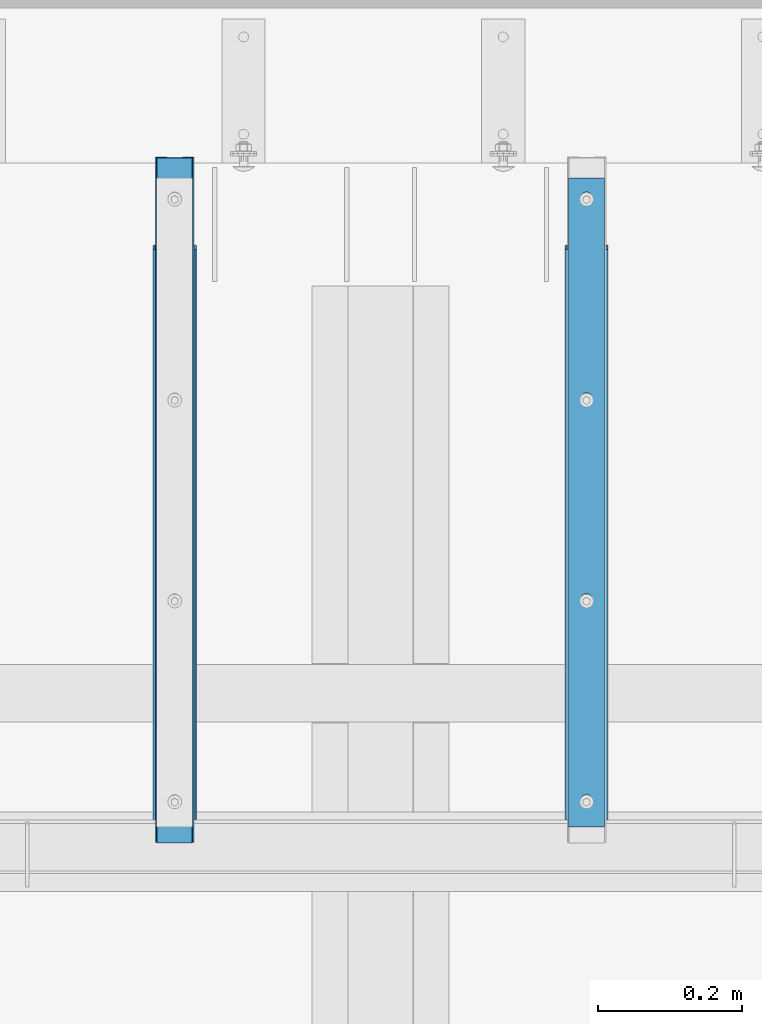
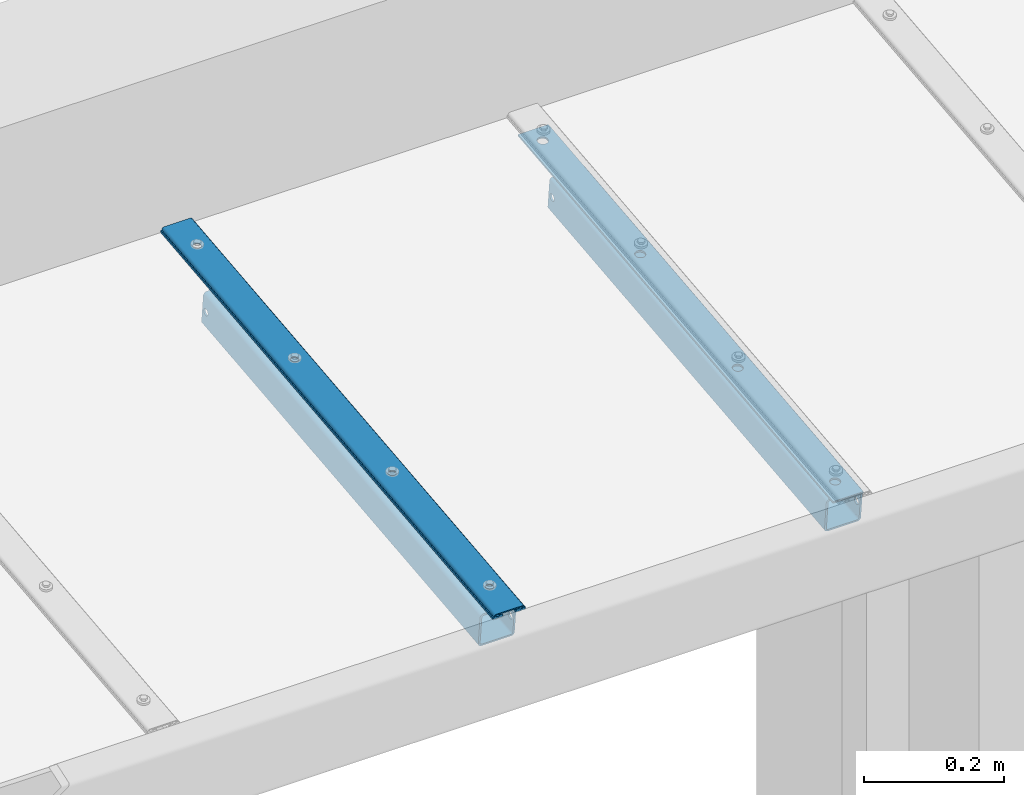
# One storey, part 18 of 116: 4 members, 12 openings.
"""IFC2X3 building model written with IfcOpenShell, lengths in millimetres."""

from ifc_helpers import new_model, entity, si_unit, converted_unit, point, frame, frame_2d, origin, origin_with_axes, origin_2d, origin_2d_with_axis, place, context, project, spatial, polyline, circle_curve, line_curve, trimmed, segment, composite_curve, hollow_rectangle, circle, outline, extrude, material, element, save


model = new_model("IFC2X3")

# Units and contexts
model_context = context("Model", 3, precision=1e-09, world=origin_with_axes())
ifc_project = project(units=[si_unit("LENGTHUNIT", "METRE", prefix="MILLI"), si_unit("AREAUNIT", "SQUARE_METRE"), si_unit("VOLUMEUNIT", "CUBIC_METRE"), converted_unit("PLANEANGLEUNIT", "DEGREE", entity("IfcPlaneAngleMeasure", 0.01745329), si_unit("PLANEANGLEUNIT", "RADIAN"), dimensions=[0, 0, 0, 0, 0, 0, 0])], contexts=[model_context])

# Site, building, storey
site_placement = place(None, origin_with_axes())
site = spatial("IfcSite", under=ifc_project, at=site_placement, Name="Site", CompositionType="ELEMENT")
building_placement = place(site_placement, origin_with_axes())
building = spatial("IfcBuilding", under=site, at=building_placement, Name="Struktur 1", CompositionType="ELEMENT")
storey_placement = place(building_placement, origin_with_axes())
storey = spatial("IfcBuildingStorey", under=building, at=storey_placement, Name="Default Storey", CompositionType="ELEMENT", Elevation=0.0)

# Member, openings
ifc_material = material(Name="S235JR")
member_1_placement = place(None, frame((56466.549134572, 11080.325462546, 2512.640850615), z_axis=(0.0, -0.994521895, -0.104528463), x_axis=(1.0, 0.0, 0.0)))
member_1 = element("IfcMember", 1, at=member_1_placement, inside=storey, material=ifc_material, Name="-", ObjectType="-", context=model_context, shape_type="SweptSolid", body=[
    extrude(outline(composite_curve([segment(trimmed(line_curve((10.75, -4.5), (1.0, 0.0), 0.5), [point((10.75, -4.5))], [point((11.25, -4.5))], True, "CARTESIAN"), True, "CONTINUOUS"), segment(trimmed(line_curve((11.25, -4.5), (0.0, 1.0), 1.0), [point((11.25, -4.5))], [point((11.25, -3.5))], True, "CARTESIAN"), True, "CONTINUOUS"), segment(trimmed(line_curve((11.25, -3.5), (1.0, 0.0), 1.0), [point((11.25, -3.5))], [point((12.25, -3.5))], True, "CARTESIAN"), True, "CONTINUOUS"), segment(trimmed(line_curve((12.25, -3.5), (0.0, -1.0), 1.0), [point((12.25, -3.5))], [point((12.25, -4.5))], True, "CARTESIAN"), True, "CONTINUOUS"), segment(trimmed(line_curve((12.25, -4.5), (1.0, 0.0), 1.0), [point((12.25, -4.5))], [point((13.25, -4.5))], True, "CARTESIAN"), True, "CONTINUOUS"), segment(trimmed(line_curve((13.25, -4.5), (0.0, 1.0), 1.0), [point((13.25, -4.5))], [point((13.25, -3.5))], True, "CARTESIAN"), True, "CONTINUOUS"), segment(trimmed(line_curve((13.25, -3.5), (1.0, 0.0), 1.0), [point((13.25, -3.5))], [point((14.25, -3.5))], True, "CARTESIAN"), True, "CONTINUOUS"), segment(trimmed(line_curve((14.25, -3.5), (0.0, -1.0), 1.0), [point((14.25, -3.5))], [point((14.25, -4.5))], True, "CARTESIAN"), True, "CONTINUOUS"), segment(trimmed(line_curve((14.25, -4.5), (1.0, 0.0), 1.0), [point((14.25, -4.5))], [point((15.25, -4.5))], True, "CARTESIAN"), True, "CONTINUOUS"), segment(trimmed(line_curve((15.25, -4.5), (0.0, 1.0), 1.0), [point((15.25, -4.5))], [point((15.25, -3.5))], True, "CARTESIAN"), True, "CONTINUOUS"), segment(trimmed(line_curve((15.25, -3.5), (1.0, 0.0), 1.0), [point((15.25, -3.5))], [point((16.25, -3.5))], True, "CARTESIAN"), True, "CONTINUOUS"), segment(trimmed(line_curve((16.25, -3.5), (0.0, -1.0), 1.0), [point((16.25, -3.5))], [point((16.25, -4.5))], True, "CARTESIAN"), True, "CONTINUOUS"), segment(trimmed(line_curve((16.25, -4.5), (1.0, 0.0), 1.0), [point((16.25, -4.5))], [point((17.25, -4.5))], True, "CARTESIAN"), True, "CONTINUOUS"), segment(trimmed(line_curve((17.25, -4.5), (0.0, 1.0), 1.0), [point((17.25, -4.5))], [point((17.25, -3.5))], True, "CARTESIAN"), True, "CONTINUOUS"), segment(trimmed(line_curve((17.25, -3.5), (1.0, 0.0), 1.0), [point((17.25, -3.5))], [point((18.25, -3.5))], True, "CARTESIAN"), True, "CONTINUOUS"), segment(trimmed(line_curve((18.25, -3.5), (0.0, -1.0), 1.0), [point((18.25, -3.5))], [point((18.25, -4.5))], True, "CARTESIAN"), True, "CONTINUOUS"), segment(trimmed(line_curve((18.25, -4.5), (1.0, 0.0), 1.0), [point((18.25, -4.5))], [point((19.25, -4.5))], True, "CARTESIAN"), True, "CONTINUOUS"), segment(trimmed(line_curve((19.25, -4.5), (0.0, 1.0), 1.0), [point((19.25, -4.5))], [point((19.25, -3.5))], True, "CARTESIAN"), True, "CONTINUOUS"), segment(trimmed(line_curve((19.25, -3.5), (1.0, 0.0), 1.0), [point((19.25, -3.5))], [point((20.25, -3.5))], True, "CARTESIAN"), True, "CONTINUOUS"), segment(trimmed(line_curve((20.25, -3.5), (0.0, -1.0), 1.0), [point((20.25, -3.5))], [point((20.25, -4.5))], True, "CARTESIAN"), True, "CONTINUOUS"), segment(trimmed(line_curve((20.25, -4.5), (1.0, 0.0), 1.0), [point((20.25, -4.5))], [point((21.25, -4.5))], True, "CARTESIAN"), True, "CONTINUOUS"), segment(trimmed(line_curve((21.25, -4.5), (0.0, 1.0), 1.0), [point((21.25, -4.5))], [point((21.25, -3.5))], True, "CARTESIAN"), True, "CONTINUOUS"), segment(trimmed(line_curve((21.25, -3.5), (1.0, 0.0), 1.0), [point((21.25, -3.5))], [point((22.25, -3.5))], True, "CARTESIAN"), True, "CONTINUOUS"), segment(trimmed(line_curve((22.25, -3.5), (0.0, -1.0), 1.0), [point((22.25, -3.5))], [point((22.25, -4.5))], True, "CARTESIAN"), True, "CONTINUOUS"), segment(trimmed(line_curve((22.25, -4.5), (1.0, 0.0), 1.0), [point((22.25, -4.5))], [point((23.25, -4.5))], True, "CARTESIAN"), True, "CONTINUOUS"), segment(trimmed(line_curve((23.25, -4.5), (0.0, 1.0), 1.0), [point((23.25, -4.5))], [point((23.25, -3.5))], True, "CARTESIAN"), True, "CONTINUOUS"), segment(trimmed(line_curve((23.25, -3.5), (1.0, 0.0), 1.0), [point((23.25, -3.5))], [point((24.25, -3.5))], True, "CARTESIAN"), True, "CONTINUOUS"), segment(trimmed(line_curve((24.25, -3.5), (0.0, -1.0), 1.0), [point((24.25, -3.5))], [point((24.25, -4.5))], True, "CARTESIAN"), True, "CONTINUOUS"), segment(trimmed(line_curve((24.25, -4.5), (1.0, 0.0), 1.0), [point((24.25, -4.5))], [point((25.25, -4.5))], True, "CARTESIAN"), True, "CONTINUOUS"), segment(trimmed(line_curve((25.25, -4.5), (0.0, 1.0), 1.0), [point((25.25, -4.5))], [point((25.25, -3.5))], True, "CARTESIAN"), True, "CONTINUOUS"), segment(trimmed(line_curve((25.25, -3.5), (1.0, 0.0), 1.0), [point((25.25, -3.5))], [point((26.25, -3.5))], True, "CARTESIAN"), True, "CONTINUOUS"), segment(trimmed(line_curve((26.25, -3.5), (0.0, -1.0), 1.0), [point((26.25, -3.5))], [point((26.25, -4.5))], True, "CARTESIAN"), True, "CONTINUOUS"), segment(trimmed(line_curve((26.25, -4.5), (1.0, 0.0), 0.5), [point((26.25, -4.5))], [point((26.75, -4.5))], True, "CARTESIAN"), True, "CONTINUOUS"), segment(trimmed(line_curve((26.75, -4.5), (0.0, 1.0), 4.0), [point((26.75, -4.5))], [point((26.75, -0.5))], True, "CARTESIAN"), True, "CONTINUOUS"), segment(trimmed(line_curve((26.75, -0.5), (-1.0, 0.0), 1.75), [point((26.75, -0.5))], [point((25.0, -0.5))], True, "CARTESIAN"), True, "CONTINUOUS"), segment(trimmed(line_curve((25.0, -0.5), (0.0, 1.0), 1.5), [point((25.0, -0.5))], [point((25.0, 1.0))], True, "CARTESIAN"), True, "CONTINUOUS"), segment(trimmed(circle_curve(frame_2d((21.499999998, 0.999999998), x_axis=(1.0, 0.0)), 3.500000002), [point((25.0, 1.0))], [point((21.5, 4.5))], True, "CARTESIAN"), True, "CONTINUOUS"), segment(trimmed(line_curve((21.5, 4.5), (-1.0, 0.0), 43.0), [point((21.5, 4.5))], [point((-21.5, 4.5))], True, "CARTESIAN"), True, "CONTINUOUS"), segment(trimmed(circle_curve(frame_2d((-21.499999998, 0.999999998), x_axis=(1.0, 0.0)), 3.500000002), [point((-21.5, 4.5))], [point((-25.0, 1.0))], True, "CARTESIAN"), True, "CONTINUOUS"), segment(trimmed(line_curve((-25.0, 1.0), (0.0, -1.0), 1.5), [point((-25.0, 1.0))], [point((-25.0, -0.5))], True, "CARTESIAN"), True, "CONTINUOUS"), segment(trimmed(line_curve((-25.0, -0.5), (-1.0, 0.0), 1.75), [point((-25.0, -0.5))], [point((-26.75, -0.5))], True, "CARTESIAN"), True, "CONTINUOUS"), segment(trimmed(line_curve((-26.75, -0.5), (0.0, -1.0), 4.0), [point((-26.75, -0.5))], [point((-26.75, -4.5))], True, "CARTESIAN"), True, "CONTINUOUS"), segment(trimmed(line_curve((-26.75, -4.5), (1.0, 0.0), 0.5), [point((-26.75, -4.5))], [point((-26.25, -4.5))], True, "CARTESIAN"), True, "CONTINUOUS"), segment(trimmed(line_curve((-26.25, -4.5), (0.0, 1.0), 1.0), [point((-26.25, -4.5))], [point((-26.25, -3.5))], True, "CARTESIAN"), True, "CONTINUOUS"), segment(trimmed(line_curve((-26.25, -3.5), (1.0, 0.0), 1.0), [point((-26.25, -3.5))], [point((-25.25, -3.5))], True, "CARTESIAN"), True, "CONTINUOUS"), segment(trimmed(line_curve((-25.25, -3.5), (0.0, -1.0), 1.0), [point((-25.25, -3.5))], [point((-25.25, -4.5))], True, "CARTESIAN"), True, "CONTINUOUS"), segment(trimmed(line_curve((-25.25, -4.5), (1.0, 0.0), 1.0), [point((-25.25, -4.5))], [point((-24.25, -4.5))], True, "CARTESIAN"), True, "CONTINUOUS"), segment(trimmed(line_curve((-24.25, -4.5), (0.0, 1.0), 1.0), [point((-24.25, -4.5))], [point((-24.25, -3.5))], True, "CARTESIAN"), True, "CONTINUOUS"), segment(trimmed(line_curve((-24.25, -3.5), (1.0, 0.0), 1.0), [point((-24.25, -3.5))], [point((-23.25, -3.5))], True, "CARTESIAN"), True, "CONTINUOUS"), segment(trimmed(line_curve((-23.25, -3.5), (0.0, -1.0), 1.0), [point((-23.25, -3.5))], [point((-23.25, -4.5))], True, "CARTESIAN"), True, "CONTINUOUS"), segment(trimmed(line_curve((-23.25, -4.5), (1.0, 0.0), 1.0), [point((-23.25, -4.5))], [point((-22.25, -4.5))], True, "CARTESIAN"), True, "CONTINUOUS"), segment(trimmed(line_curve((-22.25, -4.5), (0.0, 1.0), 1.0), [point((-22.25, -4.5))], [point((-22.25, -3.5))], True, "CARTESIAN"), True, "CONTINUOUS"), segment(trimmed(line_curve((-22.25, -3.5), (1.0, 0.0), 1.0), [point((-22.25, -3.5))], [point((-21.25, -3.5))], True, "CARTESIAN"), True, "CONTINUOUS"), segment(trimmed(line_curve((-21.25, -3.5), (0.0, -1.0), 1.0), [point((-21.25, -3.5))], [point((-21.25, -4.5))], True, "CARTESIAN"), True, "CONTINUOUS"), segment(trimmed(line_curve((-21.25, -4.5), (1.0, 0.0), 1.0), [point((-21.25, -4.5))], [point((-20.25, -4.5))], True, "CARTESIAN"), True, "CONTINUOUS"), segment(trimmed(line_curve((-20.25, -4.5), (0.0, 1.0), 1.0), [point((-20.25, -4.5))], [point((-20.25, -3.5))], True, "CARTESIAN"), True, "CONTINUOUS"), segment(trimmed(line_curve((-20.25, -3.5), (1.0, 0.0), 1.0), [point((-20.25, -3.5))], [point((-19.25, -3.5))], True, "CARTESIAN"), True, "CONTINUOUS"), segment(trimmed(line_curve((-19.25, -3.5), (0.0, -1.0), 1.0), [point((-19.25, -3.5))], [point((-19.25, -4.5))], True, "CARTESIAN"), True, "CONTINUOUS"), segment(trimmed(line_curve((-19.25, -4.5), (1.0, 0.0), 1.0), [point((-19.25, -4.5))], [point((-18.25, -4.5))], True, "CARTESIAN"), True, "CONTINUOUS"), segment(trimmed(line_curve((-18.25, -4.5), (0.0, 1.0), 1.0), [point((-18.25, -4.5))], [point((-18.25, -3.5))], True, "CARTESIAN"), True, "CONTINUOUS"), segment(trimmed(line_curve((-18.25, -3.5), (1.0, 0.0), 1.0), [point((-18.25, -3.5))], [point((-17.25, -3.5))], True, "CARTESIAN"), True, "CONTINUOUS"), segment(trimmed(line_curve((-17.25, -3.5), (0.0, -1.0), 1.0), [point((-17.25, -3.5))], [point((-17.25, -4.5))], True, "CARTESIAN"), True, "CONTINUOUS"), segment(trimmed(line_curve((-17.25, -4.5), (1.0, 0.0), 1.0), [point((-17.25, -4.5))], [point((-16.25, -4.5))], True, "CARTESIAN"), True, "CONTINUOUS"), segment(trimmed(line_curve((-16.25, -4.5), (0.0, 1.0), 1.0), [point((-16.25, -4.5))], [point((-16.25, -3.5))], True, "CARTESIAN"), True, "CONTINUOUS"), segment(trimmed(line_curve((-16.25, -3.5), (1.0, 0.0), 1.0), [point((-16.25, -3.5))], [point((-15.25, -3.5))], True, "CARTESIAN"), True, "CONTINUOUS"), segment(trimmed(line_curve((-15.25, -3.5), (0.0, -1.0), 1.0), [point((-15.25, -3.5))], [point((-15.25, -4.5))], True, "CARTESIAN"), True, "CONTINUOUS"), segment(trimmed(line_curve((-15.25, -4.5), (1.0, 0.0), 1.0), [point((-15.25, -4.5))], [point((-14.25, -4.5))], True, "CARTESIAN"), True, "CONTINUOUS"), segment(trimmed(line_curve((-14.25, -4.5), (0.0, 1.0), 1.0), [point((-14.25, -4.5))], [point((-14.25, -3.5))], True, "CARTESIAN"), True, "CONTINUOUS"), segment(trimmed(line_curve((-14.25, -3.5), (1.0, 0.0), 1.0), [point((-14.25, -3.5))], [point((-13.25, -3.5))], True, "CARTESIAN"), True, "CONTINUOUS"), segment(trimmed(line_curve((-13.25, -3.5), (0.0, -1.0), 1.0), [point((-13.25, -3.5))], [point((-13.25, -4.5))], True, "CARTESIAN"), True, "CONTINUOUS"), segment(trimmed(line_curve((-13.25, -4.5), (1.0, 0.0), 1.0), [point((-13.25, -4.5))], [point((-12.25, -4.5))], True, "CARTESIAN"), True, "CONTINUOUS"), segment(trimmed(line_curve((-12.25, -4.5), (0.0, 1.0), 1.0), [point((-12.25, -4.5))], [point((-12.25, -3.5))], True, "CARTESIAN"), True, "CONTINUOUS"), segment(trimmed(line_curve((-12.25, -3.5), (1.0, 0.0), 1.0), [point((-12.25, -3.5))], [point((-11.25, -3.5))], True, "CARTESIAN"), True, "CONTINUOUS"), segment(trimmed(line_curve((-11.25, -3.5), (0.0, -1.0), 1.0), [point((-11.25, -3.5))], [point((-11.25, -4.5))], True, "CARTESIAN"), True, "CONTINUOUS"), segment(trimmed(line_curve((-11.25, -4.5), (1.0, 0.0), 0.5), [point((-11.25, -4.5))], [point((-10.75, -4.5))], True, "CARTESIAN"), True, "CONTINUOUS"), segment(trimmed(line_curve((-10.75, -4.5), (0.0, 1.0), 4.0), [point((-10.75, -4.5))], [point((-10.75, -0.5))], True, "CARTESIAN"), True, "CONTINUOUS"), segment(trimmed(line_curve((-10.75, -0.5), (-1.0, 0.0), 1.75), [point((-10.75, -0.5))], [point((-12.5, -0.5))], True, "CARTESIAN"), True, "CONTINUOUS"), segment(trimmed(line_curve((-12.5, -0.5), (0.0, 1.0), 3.0), [point((-12.5, -0.5))], [point((-12.5, 2.5))], True, "CARTESIAN"), True, "CONTINUOUS"), segment(trimmed(line_curve((-12.5, 2.5), (1.0, 0.0), 25.0), [point((-12.5, 2.5))], [point((12.5, 2.5))], True, "CARTESIAN"), True, "CONTINUOUS"), segment(trimmed(line_curve((12.5, 2.5), (0.0, -1.0), 3.0), [point((12.5, 2.5))], [point((12.5, -0.5))], True, "CARTESIAN"), True, "CONTINUOUS"), segment(trimmed(line_curve((12.5, -0.5), (-1.0, 0.0), 1.75), [point((12.5, -0.5))], [point((10.75, -0.5))], True, "CARTESIAN"), True, "CONTINUOUS"), segment(trimmed(line_curve((10.75, -0.5), (0.0, -1.0), 4.0), [point((10.75, -0.5))], [point((10.75, -4.5))], True, "CARTESIAN"), True, "CONTINUOUS")], self_intersect=False), holes=[composite_curve([segment(trimmed(line_curve((16.25, -0.5), (1.0, 0.0), 5.0), [point((16.25, -0.5))], [point((21.25, -0.5))], True, "CARTESIAN"), True, "CONTINUOUS"), segment(trimmed(line_curve((21.25, -0.5), (0.0, 1.0), 1.5), [point((21.25, -0.5))], [point((21.25, 1.0))], True, "CARTESIAN"), True, "CONTINUOUS"), segment(trimmed(line_curve((21.25, 1.0), (1.0, 0.0), 2.25), [point((21.25, 1.0))], [point((23.5, 1.0))], True, "CARTESIAN"), True, "CONTINUOUS"), segment(trimmed(circle_curve(frame_2d((21.499999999, 0.999999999), x_axis=(1.0, 0.0)), 2.000000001), [point((23.5, 1.0))], [point((21.5, 3.0))], True, "CARTESIAN"), True, "CONTINUOUS"), segment(trimmed(line_curve((21.5, 3.0), (-1.0, 0.0), 7.5), [point((21.5, 3.0))], [point((14.0, 3.0))], True, "CARTESIAN"), True, "CONTINUOUS"), segment(trimmed(line_curve((14.0, 3.0), (0.0, -1.0), 2.0), [point((14.0, 3.0))], [point((14.0, 1.0))], True, "CARTESIAN"), True, "CONTINUOUS"), segment(trimmed(line_curve((14.0, 1.0), (1.0, 0.0), 2.25), [point((14.0, 1.0))], [point((16.25, 1.0))], True, "CARTESIAN"), True, "CONTINUOUS"), segment(trimmed(line_curve((16.25, 1.0), (0.0, -1.0), 1.5), [point((16.25, 1.0))], [point((16.25, -0.5))], True, "CARTESIAN"), True, "CONTINUOUS")], self_intersect=False), composite_curve([segment(trimmed(line_curve((-16.25, -0.5), (0.0, 1.0), 1.5), [point((-16.25, -0.5))], [point((-16.25, 1.0))], True, "CARTESIAN"), True, "CONTINUOUS"), segment(trimmed(line_curve((-16.25, 1.0), (1.0, 0.0), 2.25), [point((-16.25, 1.0))], [point((-14.0, 1.0))], True, "CARTESIAN"), True, "CONTINUOUS"), segment(trimmed(line_curve((-14.0, 1.0), (0.0, 1.0), 2.0), [point((-14.0, 1.0))], [point((-14.0, 3.0))], True, "CARTESIAN"), True, "CONTINUOUS"), segment(trimmed(line_curve((-14.0, 3.0), (-1.0, 0.0), 7.5), [point((-14.0, 3.0))], [point((-21.5, 3.0))], True, "CARTESIAN"), True, "CONTINUOUS"), segment(trimmed(circle_curve(frame_2d((-21.499999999, 0.999999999), x_axis=(1.0, 0.0)), 2.000000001), [point((-21.5, 3.0))], [point((-23.5, 1.0))], True, "CARTESIAN"), True, "CONTINUOUS"), segment(trimmed(line_curve((-23.5, 1.0), (1.0, 0.0), 2.25), [point((-23.5, 1.0))], [point((-21.25, 1.0))], True, "CARTESIAN"), True, "CONTINUOUS"), segment(trimmed(line_curve((-21.25, 1.0), (0.0, -1.0), 1.5), [point((-21.25, 1.0))], [point((-21.25, -0.5))], True, "CARTESIAN"), True, "CONTINUOUS"), segment(trimmed(line_curve((-21.25, -0.5), (1.0, 0.0), 5.0), [point((-21.25, -0.5))], [point((-16.25, -0.5))], True, "CARTESIAN"), True, "CONTINUOUS")], self_intersect=False)]), origin(), (0.0, 0.0, -1.0), 954.995580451),
])
opening_1_placement = place(member_1_placement, frame((2e-09, 2.0, -897.497790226), z_axis=(0.0, 1.0, 0.0), x_axis=(1.0, 0.0, 0.0)))
element("IfcOpeningElement", 2, at=opening_1_placement, cuts=member_1, ObjectType="Opening", context=model_context, shape_type="SweptSolid", body=[
    extrude(circle(Radius=6.001, at=origin_2d_with_axis()), origin(), (0.0, 0.0, 1.0), 3.0),
])
opening_2_placement = place(member_1_placement, frame((2e-09, 2.0, -57.497790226), z_axis=(0.0, 1.0, 0.0), x_axis=(1.0, 0.0, 0.0)))
element("IfcOpeningElement", 3, at=opening_2_placement, cuts=member_1, ObjectType="Opening", context=model_context, shape_type="SweptSolid", body=[
    extrude(circle(Radius=6.001, at=origin_2d_with_axis()), origin(), (0.0, 0.0, 1.0), 3.0),
])
opening_3_placement = place(member_1_placement, frame((2e-09, 2.0, -617.497790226), z_axis=(0.0, 1.0, 0.0), x_axis=(1.0, 0.0, 0.0)))
element("IfcOpeningElement", 4, at=opening_3_placement, cuts=member_1, ObjectType="Opening", context=model_context, shape_type="SweptSolid", body=[
    extrude(circle(Radius=6.001, at=origin_2d_with_axis()), origin(), (0.0, 0.0, 1.0), 3.0),
])
opening_4_placement = place(member_1_placement, frame((2e-09, 2.0, -337.497790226), z_axis=(0.0, 1.0, 0.0), x_axis=(1.0, 0.0, 0.0)))
element("IfcOpeningElement", 5, at=opening_4_placement, cuts=member_1, ObjectType="Opening", context=model_context, shape_type="SweptSolid", body=[
    extrude(circle(Radius=6.001, at=origin_2d_with_axis()), origin(), (0.0, 0.0, 1.0), 3.0),
])

member_2_placement = place(None, frame((56466.549134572, 11905.637117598, 2552.869787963), z_axis=(0.0, 0.994521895, 0.104528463), x_axis=(0.0, -0.104528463, 0.994521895)))
member_2 = element("IfcMember", 6, at=member_2_placement, inside=storey, material=ifc_material, Name="-", ObjectType="-", context=model_context, shape_type="SweptSolid", body=[
    extrude(hollow_rectangle(XDim=60.0, YDim=60.0, WallThickness=3.0, InnerFilletRadius=3.0, OuterFilletRadius=6.0, at=origin_2d()), origin(), (0.0, 0.0, -1.0), 794.995580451),
])
opening_5_placement = place(member_2_placement, frame((0.0, -26.5, 0.0), z_axis=(0.0, -1.0, 0.0), x_axis=(1.0, 0.0, 0.0)))
element("IfcOpeningElement", 7, at=opening_5_placement, cuts=member_2, ObjectType="Opening", context=model_context, shape_type="SweptSolid", body=[
    extrude(circle(Radius=6.001, at=frame_2d((0.0, -10.0), x_axis=(1.0, 0.0))), origin(), (0.0, 0.0, 1.0), 4.0),
])
opening_6_placement = place(member_2_placement, frame((0.0, 26.5, -794.995580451), z_axis=(0.0, 1.0, 0.0), x_axis=(1.0, 0.0, 0.0)))
element("IfcOpeningElement", 8, at=opening_6_placement, cuts=member_2, ObjectType="Opening", context=model_context, shape_type="SweptSolid", body=[
    extrude(circle(Radius=6.001, at=frame_2d((0.0, -10.0), x_axis=(1.0, 0.0))), origin(), (0.0, 0.0, 1.0), 4.0),
])

member_3_placement = place(None, frame((57037.549134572, 11905.637117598, 2552.869787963), z_axis=(0.0, 0.994521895, 0.104528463), x_axis=(0.0, -0.104528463, 0.994521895)))
member_3 = element("IfcMember", 9, at=member_3_placement, inside=storey, material=ifc_material, Name="-", ObjectType="-", context=model_context, shape_type="SweptSolid", body=[
    extrude(hollow_rectangle(XDim=60.0, YDim=60.0, WallThickness=3.0, InnerFilletRadius=3.0, OuterFilletRadius=6.0, at=origin_2d()), origin(), (0.0, 0.0, -1.0), 794.995580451),
])
opening_7_placement = place(member_3_placement, frame((0.0, -26.5, 0.0), z_axis=(0.0, -1.0, 0.0), x_axis=(1.0, 0.0, 0.0)))
element("IfcOpeningElement", 10, at=opening_7_placement, cuts=member_3, ObjectType="Opening", context=model_context, shape_type="SweptSolid", body=[
    extrude(circle(Radius=6.001, at=frame_2d((0.0, -10.0), x_axis=(1.0, 0.0))), origin(), (0.0, 0.0, 1.0), 4.0),
])
opening_8_placement = place(member_3_placement, frame((0.0, 26.5, -794.995580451), z_axis=(0.0, 1.0, 0.0), x_axis=(1.0, 0.0, 0.0)))
element("IfcOpeningElement", 11, at=opening_8_placement, cuts=member_3, ObjectType="Opening", context=model_context, shape_type="SweptSolid", body=[
    extrude(circle(Radius=6.001, at=frame_2d((0.0, -10.0), x_axis=(1.0, 0.0))), origin(), (0.0, 0.0, 1.0), 4.0),
])

member_4_placement = place(None, frame((57037.549134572, 11101.758740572, 2500.052276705), z_axis=(0.0, -0.994521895, -0.104528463), x_axis=(1.0, 0.0, 0.0)))
member_4 = element("IfcMember", 12, at=member_4_placement, inside=storey, material=ifc_material, Name="-", ObjectType="-", context=model_context, shape_type="SweptSolid", body=[
    extrude(outline(polyline([(-25.0, 1.5), (-25.0, -1.5), (25.0, -1.5), (25.0, 1.5), (-25.0, 1.5)])), origin(), (0.0, 0.0, -1.0), 904.995580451),
])
opening_9_placement = place(member_4_placement, frame((2e-09, -2.0, -37.497790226), z_axis=(0.0, 1.0, 0.0), x_axis=(1.0, 0.0, 0.0)))
element("IfcOpeningElement", 13, at=opening_9_placement, cuts=member_4, ObjectType="Opening", context=model_context, shape_type="SweptSolid", body=[
    extrude(circle(Radius=8.001, at=origin_2d_with_axis()), origin(), (0.0, 0.0, 1.0), 4.0),
])
opening_10_placement = place(member_4_placement, frame((2e-09, -2.0, -317.497790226), z_axis=(0.0, 1.0, 0.0), x_axis=(1.0, 0.0, 0.0)))
element("IfcOpeningElement", 14, at=opening_10_placement, cuts=member_4, ObjectType="Opening", context=model_context, shape_type="SweptSolid", body=[
    extrude(circle(Radius=8.001, at=origin_2d_with_axis()), origin(), (0.0, 0.0, 1.0), 4.0),
])
opening_11_placement = place(member_4_placement, frame((2e-09, -2.0, -877.497790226), z_axis=(0.0, 1.0, 0.0), x_axis=(1.0, 0.0, 0.0)))
element("IfcOpeningElement", 15, at=opening_11_placement, cuts=member_4, ObjectType="Opening", context=model_context, shape_type="SweptSolid", body=[
    extrude(circle(Radius=8.001, at=origin_2d_with_axis()), origin(), (0.0, 0.0, 1.0), 4.0),
])
opening_12_placement = place(member_4_placement, frame((2e-09, -2.0, -597.497790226), z_axis=(0.0, 1.0, 0.0), x_axis=(1.0, 0.0, 0.0)))
element("IfcOpeningElement", 16, at=opening_12_placement, cuts=member_4, ObjectType="Opening", context=model_context, shape_type="SweptSolid", body=[
    extrude(circle(Radius=8.001, at=origin_2d_with_axis()), origin(), (0.0, 0.0, 1.0), 4.0),
])

save(model, "model.ifc")
